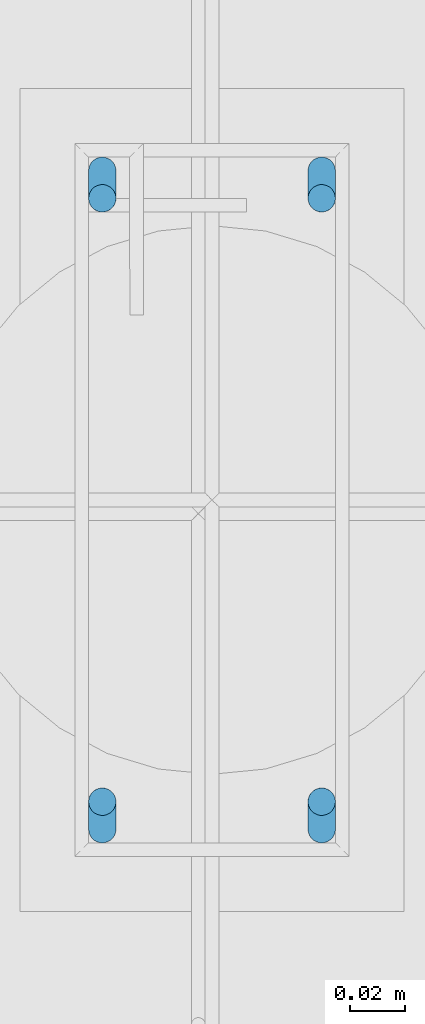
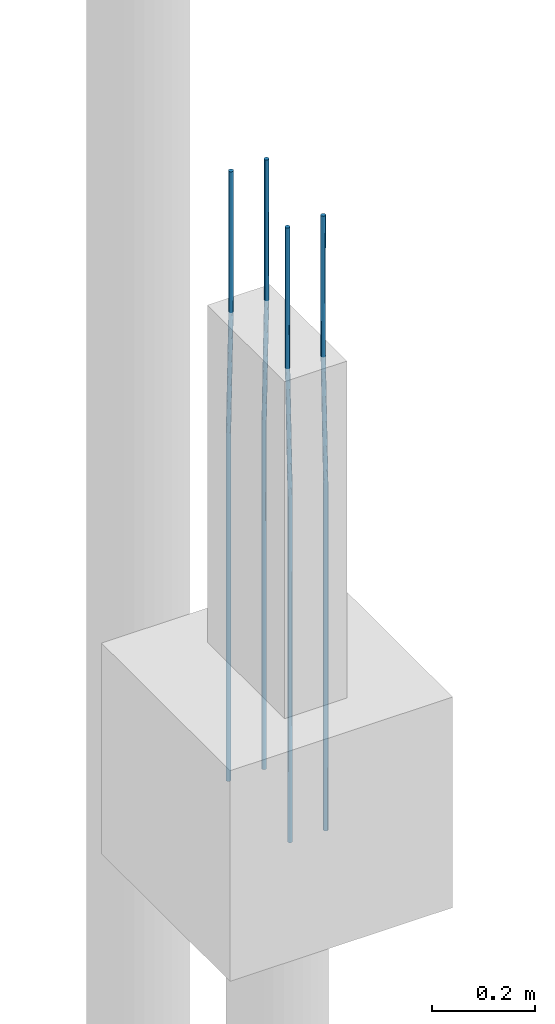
# One storey, part 30 of 119: 4 reinforcing bars.
"""IFC4 building model written with IfcOpenShell, lengths in centimetres."""

from ifc_helpers import new_model, entity, si_unit, derived_unit, frame, origin_with_axes, place, context, project, spatial, element, save


model = new_model("IFC4")

# Units and contexts
model_context = context("Model", 3, precision=1e-05, world=origin_with_axes(), identifier="Body")
ifc_project = project(units=[si_unit("LENGTHUNIT", "METRE", prefix="CENTI"), si_unit("VOLUMEUNIT", "CUBIC_METRE"), si_unit("AREAUNIT", "SQUARE_METRE"), si_unit("POWERUNIT", "WATT"), si_unit("LUMINOUSFLUXUNIT", "LUMEN"), si_unit("ELECTRICCURRENTUNIT", "AMPERE"), si_unit("PRESSUREUNIT", "PASCAL", prefix="KILO"), si_unit("MASSUNIT", "GRAM", prefix="KILO"), si_unit("PLANEANGLEUNIT", "RADIAN"), derived_unit("VOLUMETRICFLOWRATEUNIT", [(si_unit("LENGTHUNIT", "METRE"), 3), (si_unit("TIMEUNIT", "SECOND"), -1)])], contexts=[model_context])

# Site, building, storey
site_placement = place(None, frame((-4000.0, 0.0, 0.0), z_axis=(0.0, 0.0, 1.0), x_axis=(1.0, 0.0, 0.0)))
site = spatial("IfcSite", under=ifc_project, at=site_placement, Name="PADRÃO")
building_placement = place(site_placement, frame((0.0, 0.0, -14.0)))
building = spatial("IfcBuilding", under=site, at=building_placement, Name="CRECHE PRÉ-ESCOLA TIPO 2")
storey_placement = place(building_placement, origin_with_axes())
storey = spatial("IfcBuildingStorey", under=building, at=storey_placement, Name="FUNDAÇÃO", CompositionType="ELEMENT", Elevation=-14.0)

# Reinforcing bars
for number, where, z_axis, x_axis, name in (
    (1, (2987.0, 2240.27, 33.3573001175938), (0.0, 0.0, 1.0), (1.0, 0.0, 0.0), "P80 - Longitudinal"),
    (2, (2979.0, 2240.27, 33.3573001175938), (0.0, 0.0, 1.0), (1.0, 0.0, 0.0), "P80 - Longitudinal"),
):
    element("IfcReinforcingBar", number, at=place(storey_placement, frame(where, z_axis=z_axis, x_axis=x_axis)), inside=storey, Name=name, BarLength=0.0, CrossSectionArea=7.853981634e-05, NominalDiameter=1.0, PredefinedType="MAIN", context=model_context, shape_type="AdvancedSweptSolid", body=[
        entity("IfcSweptDiskSolid", entity("IfcCompositeCurve", [entity("IfcCompositeCurveSegment", "CONTINUOUS", True, entity("IfcPolyline", [entity("IfcCartesianPoint", [0.0, -0.5, -145.357300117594]), entity("IfcCartesianPoint", [0.0, -0.5, -63.3573001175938])])), entity("IfcCompositeCurveSegment", "CONTINUOUS", True, entity("IfcPolyline", [entity("IfcCartesianPoint", [0.0, -0.5, -63.3573001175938]), entity("IfcCartesianPoint", [0.0, 0.5, -33.3573001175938])])), entity("IfcCompositeCurveSegment", "CONTINUOUS", True, entity("IfcPolyline", [entity("IfcCartesianPoint", [0.0, 0.5, -33.3573001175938]), entity("IfcCartesianPoint", [0.0, 0.5, 0.0])]))], False), 0.5),
    ])
for number, where, z_axis, x_axis, name in (
    (3, (2979.0, 2263.27, 33.3573001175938), (0.0, 0.0, 1.0), (1.0, 0.0, 0.0), "P80 - Longitudinal"),
    (4, (2987.0, 2263.27, 33.3573001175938), (0.0, 0.0, 1.0), (1.0, 0.0, 0.0), "P80 - Longitudinal"),
):
    element("IfcReinforcingBar", number, at=place(storey_placement, frame(where, z_axis=z_axis, x_axis=x_axis)), inside=storey, Name=name, BarLength=0.0, CrossSectionArea=7.853981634e-05, NominalDiameter=1.0, PredefinedType="MAIN", context=model_context, shape_type="AdvancedSweptSolid", body=[
        entity("IfcSweptDiskSolid", entity("IfcCompositeCurve", [entity("IfcCompositeCurveSegment", "CONTINUOUS", True, entity("IfcPolyline", [entity("IfcCartesianPoint", [0.0, 0.5, -145.357300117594]), entity("IfcCartesianPoint", [0.0, 0.5, -63.3573001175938])])), entity("IfcCompositeCurveSegment", "CONTINUOUS", True, entity("IfcPolyline", [entity("IfcCartesianPoint", [0.0, 0.5, -63.3573001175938]), entity("IfcCartesianPoint", [0.0, -0.5, -33.3573001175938])])), entity("IfcCompositeCurveSegment", "CONTINUOUS", True, entity("IfcPolyline", [entity("IfcCartesianPoint", [0.0, -0.5, -33.3573001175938]), entity("IfcCartesianPoint", [0.0, -0.5, 0.0])]))], False), 0.5),
    ])

save(model, "model.ifc")
